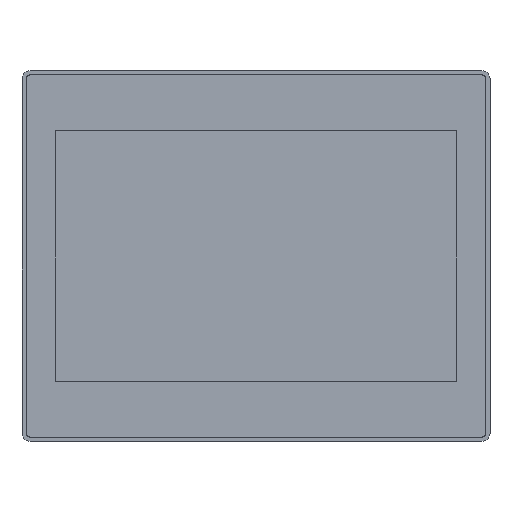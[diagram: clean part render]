
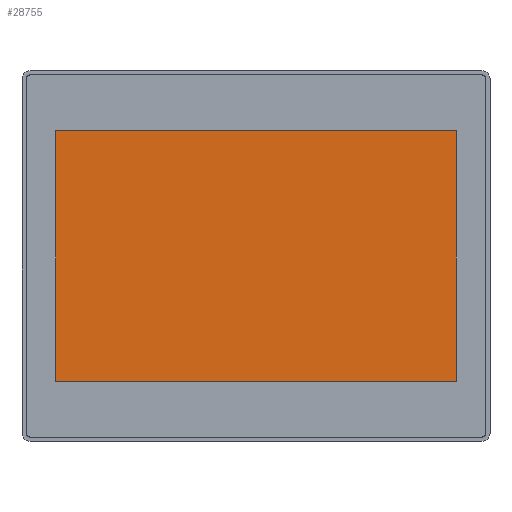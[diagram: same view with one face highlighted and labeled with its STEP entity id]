
A CAD part, top view. The second image highlights one B-rep face of the part: STEP entity #28755.
In plain terms, the highlighted planar face has unit normal (0, 0, 1).
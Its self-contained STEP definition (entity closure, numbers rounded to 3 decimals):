
#28755 = ADVANCED_FACE ( 'NONE', ( #42548 ), #54377, .T. ) ;
#40643 = VERTEX_POINT ( 'NONE', #77659 ) ;
#40644 = VERTEX_POINT ( 'NONE', #77662 ) ;
#40646 = VERTEX_POINT ( 'NONE', #77666 ) ;
#40647 = VERTEX_POINT ( 'NONE', #77669 ) ;
#40649 = VERTEX_POINT ( 'NONE', #77673 ) ;
#40651 = VERTEX_POINT ( 'NONE', #77678 ) ;
#40652 = VERTEX_POINT ( 'NONE', #77680 ) ;
#40655 = VERTEX_POINT ( 'NONE', #77688 ) ;
#41251 = ORIENTED_EDGE ( 'NONE', *, *, #45668, .T. ) ;
#41252 = ORIENTED_EDGE ( 'NONE', *, *, #45670, .T. ) ;
#41253 = ORIENTED_EDGE ( 'NONE', *, *, #45675, .T. ) ;
#41254 = ORIENTED_EDGE ( 'NONE', *, *, #45676, .T. ) ;
#41255 = ORIENTED_EDGE ( 'NONE', *, *, #45671, .T. ) ;
#41256 = ORIENTED_EDGE ( 'NONE', *, *, #45682, .T. ) ;
#41257 = ORIENTED_EDGE ( 'NONE', *, *, #45674, .T. ) ;
#41258 = ORIENTED_EDGE ( 'NONE', *, *, #45673, .T. ) ;
#42548 = FACE_OUTER_BOUND ( 'NONE', #85095, .T. ) ;
#45668 = EDGE_CURVE ( 'NONE', #40655, #40643, #67946, .T. ) ;
#45670 = EDGE_CURVE ( 'NONE', #40652, #40655, #67962, .T. ) ;
#45671 = EDGE_CURVE ( 'NONE', #40647, #40649, #67959, .T. ) ;
#45673 = EDGE_CURVE ( 'NONE', #40643, #40644, #67969, .T. ) ;
#45674 = EDGE_CURVE ( 'NONE', #40644, #40646, #67938, .T. ) ;
#45675 = EDGE_CURVE ( 'NONE', #40651, #40652, #67971, .T. ) ;
#45676 = EDGE_CURVE ( 'NONE', #40649, #40651, #67975, .T. ) ;
#45682 = EDGE_CURVE ( 'NONE', #40646, #40647, #67991, .T. ) ;
#54372 = CARTESIAN_POINT ( 'NONE',  ( -143.24, 89.6, 3.9 ) ) ;
#54377 = PLANE ( 'NONE',  #65116 ) ;
#54382 = DIRECTION ( 'NONE',  ( 0., 0., 1. ) ) ;
#54383 = DIRECTION ( 'NONE',  ( 1., 0., 0. ) ) ;
#65116 = AXIS2_PLACEMENT_3D ( 'NONE', #54372, #54382, #54383 ) ;
#65801 = AXIS2_PLACEMENT_3D ( 'NONE', #80184, #80190, #80192 ) ;
#65805 = AXIS2_PLACEMENT_3D ( 'NONE', #80188, #80201, #80203 ) ;
#65806 = AXIS2_PLACEMENT_3D ( 'NONE', #80194, #80213, #80215 ) ;
#65808 = AXIS2_PLACEMENT_3D ( 'NONE', #80224, #80232, #80234 ) ;
#67938 = LINE ( 'NONE', #80205, #67957 ) ;
#67946 = LINE ( 'NONE', #80157, #67954 ) ;
#67954 = VECTOR ( 'NONE', #80186, 1000. ) ;
#67956 = VECTOR ( 'NONE', #80197, 1000. ) ;
#67957 = VECTOR ( 'NONE', #80207, 1000. ) ;
#67959 = LINE ( 'NONE', #80196, #67956 ) ;
#67962 = CIRCLE ( 'NONE', #65801, 1. ) ;
#67969 = CIRCLE ( 'NONE', #65805, 1. ) ;
#67971 = LINE ( 'NONE', #80210, #67972 ) ;
#67972 = VECTOR ( 'NONE', #80211, 1000. ) ;
#67975 = CIRCLE ( 'NONE', #65806, 1. ) ;
#67991 = CIRCLE ( 'NONE', #65808, 1. ) ;
#77659 = CARTESIAN_POINT ( 'NONE',  ( -143.24, 90.6, 3.9 ) ) ;
#77662 = CARTESIAN_POINT ( 'NONE',  ( -144.24, 89.6, 3.9 ) ) ;
#77666 = CARTESIAN_POINT ( 'NONE',  ( -144.24, -89.6, 3.9 ) ) ;
#77669 = CARTESIAN_POINT ( 'NONE',  ( -143.24, -90.6, 3.9 ) ) ;
#77673 = CARTESIAN_POINT ( 'NONE',  ( 143.24, -90.6, 3.9 ) ) ;
#77678 = CARTESIAN_POINT ( 'NONE',  ( 144.24, -89.6, 3.9 ) ) ;
#77680 = CARTESIAN_POINT ( 'NONE',  ( 144.24, 89.6, 3.9 ) ) ;
#77688 = CARTESIAN_POINT ( 'NONE',  ( 143.24, 90.6, 3.9 ) ) ;
#80157 = CARTESIAN_POINT ( 'NONE',  ( -143.24, 90.6, 3.9 ) ) ;
#80184 = CARTESIAN_POINT ( 'NONE',  ( 143.24, 89.6, 3.9 ) ) ;
#80186 = DIRECTION ( 'NONE',  ( -1., 0., 0. ) ) ;
#80188 = CARTESIAN_POINT ( 'NONE',  ( -143.24, 89.6, 3.9 ) ) ;
#80190 = DIRECTION ( 'NONE',  ( 0., 0., 1. ) ) ;
#80192 = DIRECTION ( 'NONE',  ( 1., 0., 0. ) ) ;
#80194 = CARTESIAN_POINT ( 'NONE',  ( 143.24, -89.6, 3.9 ) ) ;
#80196 = CARTESIAN_POINT ( 'NONE',  ( -143.24, -90.6, 3.9 ) ) ;
#80197 = DIRECTION ( 'NONE',  ( 1., 0., 0. ) ) ;
#80201 = DIRECTION ( 'NONE',  ( 0., 0., 1. ) ) ;
#80203 = DIRECTION ( 'NONE',  ( 1., 0., 0. ) ) ;
#80205 = CARTESIAN_POINT ( 'NONE',  ( -144.24, 89.6, 3.9 ) ) ;
#80207 = DIRECTION ( 'NONE',  ( 0., -1., 0. ) ) ;
#80210 = CARTESIAN_POINT ( 'NONE',  ( 144.24, 89.6, 3.9 ) ) ;
#80211 = DIRECTION ( 'NONE',  ( 0., 1., 0. ) ) ;
#80213 = DIRECTION ( 'NONE',  ( 0., 0., 1. ) ) ;
#80215 = DIRECTION ( 'NONE',  ( -1., 0., 0. ) ) ;
#80224 = CARTESIAN_POINT ( 'NONE',  ( -143.24, -89.6, 3.9 ) ) ;
#80232 = DIRECTION ( 'NONE',  ( 0., 0., 1. ) ) ;
#80234 = DIRECTION ( 'NONE',  ( -1., 0., 0. ) ) ;
#85095 = EDGE_LOOP ( 'NONE', ( #41258, #41257, #41256, #41255, #41254, #41253, #41252, #41251 ) ) ;
